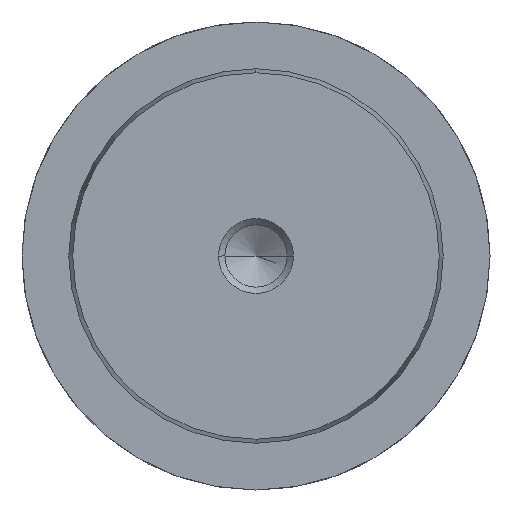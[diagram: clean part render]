
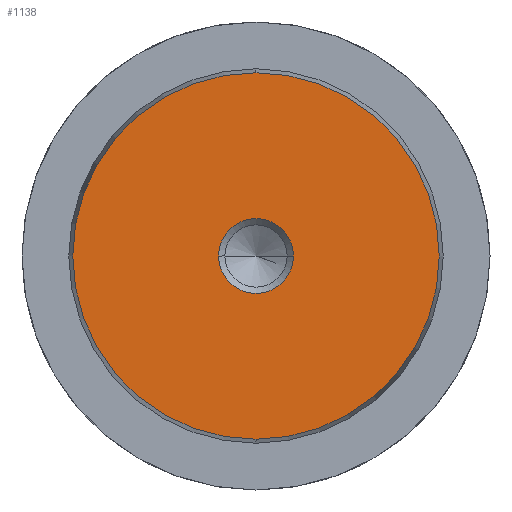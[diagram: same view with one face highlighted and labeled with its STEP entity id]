
A CAD part, left-side view. The second image highlights one B-rep face of the part: STEP entity #1138.
In plain terms, the highlighted planar face has unit normal (-1, 0, 0).
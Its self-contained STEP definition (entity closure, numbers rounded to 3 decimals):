
#1052=CARTESIAN_POINT('Vertex',(0.,0.,-19.578)) ;
#1055=CARTESIAN_POINT('Axis2P3D Location',(0.,0.,0.)) ;
#1059=CARTESIAN_POINT('Vertex',(0.,19.578,0.)) ;
#1062=CARTESIAN_POINT('Axis2P3D Location',(0.,0.,0.)) ;
#1066=CARTESIAN_POINT('Vertex',(0.,0.,19.578)) ;
#1088=CARTESIAN_POINT('Axis2P3D Location',(0.,0.,0.)) ;
#1092=CARTESIAN_POINT('Vertex',(0.,-19.578,0.)) ;
#1095=CARTESIAN_POINT('Axis2P3D Location',(0.,0.,0.)) ;
#1109=CARTESIAN_POINT('Axis2P3D Location',(0.,0.,0.)) ;
#1120=CARTESIAN_POINT('Axis2P3D Location',(0.,0.,0.)) ;
#1124=CARTESIAN_POINT('Vertex',(0.,4.,0.)) ;
#1126=CARTESIAN_POINT('Vertex',(0.,-4.,0.)) ;
#1129=CARTESIAN_POINT('Axis2P3D Location',(0.,0.,0.)) ;
#1056=DIRECTION('Axis2P3D Direction',(1.,-0.,0.)) ;
#1063=DIRECTION('Axis2P3D Direction',(1.,-0.,0.)) ;
#1089=DIRECTION('Axis2P3D Direction',(1.,0.,-0.)) ;
#1096=DIRECTION('Axis2P3D Direction',(1.,0.,-0.)) ;
#1110=DIRECTION('Axis2P3D Direction',(1.,0.,-0.)) ;
#1111=DIRECTION('Axis2P3D XDirection',(-0.,0.,-1.)) ;
#1121=DIRECTION('Axis2P3D Direction',(1.,0.,-0.)) ;
#1130=DIRECTION('Axis2P3D Direction',(1.,0.,-0.)) ;
#1057=AXIS2_PLACEMENT_3D('Circle Axis2P3D',#1055,#1056,$) ;
#1064=AXIS2_PLACEMENT_3D('Circle Axis2P3D',#1062,#1063,$) ;
#1090=AXIS2_PLACEMENT_3D('Circle Axis2P3D',#1088,#1089,$) ;
#1097=AXIS2_PLACEMENT_3D('Circle Axis2P3D',#1095,#1096,$) ;
#1112=AXIS2_PLACEMENT_3D('Plane Axis2P3D',#1109,#1110,#1111) ;
#1122=AXIS2_PLACEMENT_3D('Circle Axis2P3D',#1120,#1121,$) ;
#1131=AXIS2_PLACEMENT_3D('Circle Axis2P3D',#1129,#1130,$) ;
#1115=ORIENTED_EDGE('',*,*,#1061,.F.) ;
#1116=ORIENTED_EDGE('',*,*,#1099,.F.) ;
#1117=ORIENTED_EDGE('',*,*,#1094,.F.) ;
#1118=ORIENTED_EDGE('',*,*,#1068,.F.) ;
#1135=ORIENTED_EDGE('',*,*,#1128,.T.) ;
#1136=ORIENTED_EDGE('',*,*,#1133,.T.) ;
#1137=FACE_BOUND('',#1134,.T.) ;
#1138=ADVANCED_FACE('719-40x250',(#1119,#1137),#1113,.F.) ;
#1058=CIRCLE('generated circle',#1057,19.578) ;
#1065=CIRCLE('generated circle',#1064,19.578) ;
#1091=CIRCLE('generated circle',#1090,19.578) ;
#1098=CIRCLE('generated circle',#1097,19.578) ;
#1123=CIRCLE('generated circle',#1122,4.) ;
#1132=CIRCLE('generated circle',#1131,4.) ;
#1061=EDGE_CURVE('',#1053,#1060,#1058,.T.) ;
#1068=EDGE_CURVE('',#1060,#1067,#1065,.T.) ;
#1094=EDGE_CURVE('',#1067,#1093,#1091,.T.) ;
#1099=EDGE_CURVE('',#1093,#1053,#1098,.T.) ;
#1128=EDGE_CURVE('',#1125,#1127,#1123,.T.) ;
#1133=EDGE_CURVE('',#1127,#1125,#1132,.T.) ;
#1114=EDGE_LOOP('',(#1115,#1116,#1117,#1118)) ;
#1134=EDGE_LOOP('',(#1135,#1136)) ;
#1119=FACE_OUTER_BOUND('',#1114,.T.) ;
#1113=PLANE('Plane',#1112) ;
#1053=VERTEX_POINT('',#1052) ;
#1060=VERTEX_POINT('',#1059) ;
#1067=VERTEX_POINT('',#1066) ;
#1093=VERTEX_POINT('',#1092) ;
#1125=VERTEX_POINT('',#1124) ;
#1127=VERTEX_POINT('',#1126) ;
